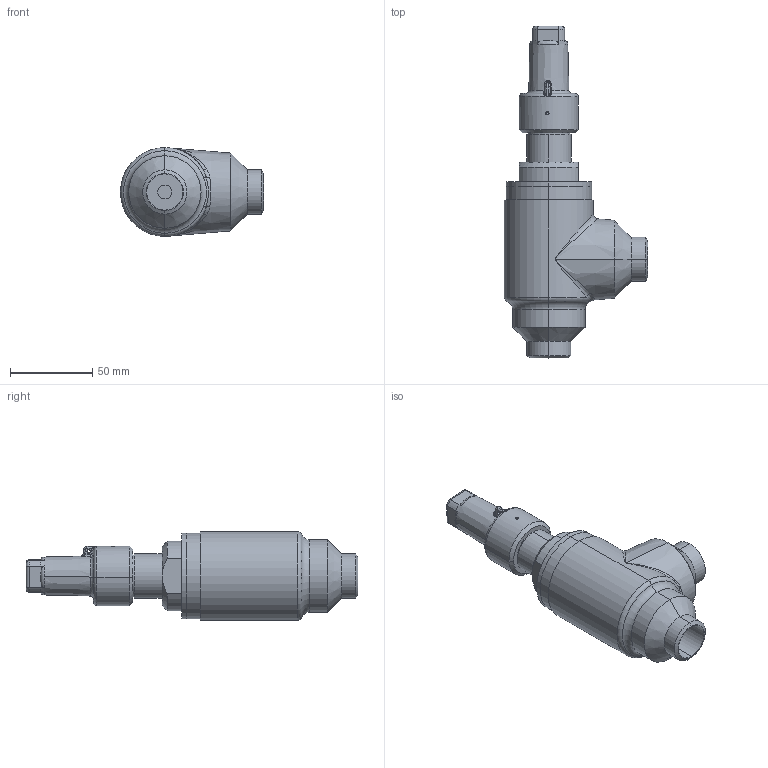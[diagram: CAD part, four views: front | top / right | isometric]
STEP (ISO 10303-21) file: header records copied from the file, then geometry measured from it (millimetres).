
FILE_DESCRIPTION (( 'STEP AP214' ), '1' );
FILE_NAME ('UVA 41200c11-DN20_R1.STEP', '2009-02-11T08:12:26', ( 'Eckhard Grams' ), ( 'AWP Kälte Klima Armaturen GmbH' ), 'SwSTEP 2.0', 'SolidWorks 2002296', '' );
FILE_SCHEMA (( 'AUTOMOTIVE_DESIGN' ));
Length unit declared in the file: millimetre
Products named in the file (4): UVA 41200c11-DN20_R1; Gehäuse41200E11-DN20_PS40_R1_Standard; Deckel 44353-11-DN20-32_PS40_Standard; Kappe 36302-10_DN6-15 (M27x1)_Standard
Assembly tree (3 placements, depth 2):
  UVA 41200c11-DN20_R1
    Kappe 36302-10_DN6-15 (M27x1)_Standard
    Gehäuse41200E11-DN20_PS40_R1_Standard
    Deckel 44353-11-DN20-32_PS40_Standard
Bounding box: 87 x 201.75 x 54 mm (x, y, z)
Volume: 190784.4 mm3; surface area: 58505.4 mm2
Topology: 3 solids, 3 shells, 194 faces, 432 edges, 258 vertices
Faces by surface type: cylinder 77, plane 40, cone 34, torus 28, bspline 15
Entity records: 22122 total; most frequent: CARTESIAN_POINT 17041, DIRECTION 961, ORIENTED_EDGE 864, EDGE_CURVE 432, AXIS2_PLACEMENT_3D 413, VERTEX_POINT 258, CIRCLE 228, EDGE_LOOP 218
